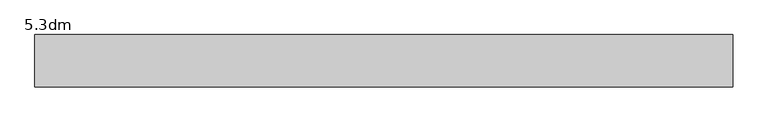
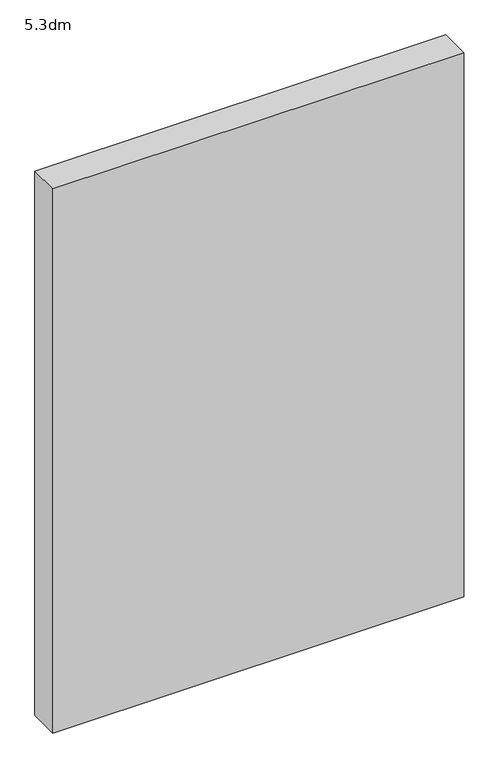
"""IFC4 building model written with IfcOpenShell, lengths in millimetres: proxy geometry, 5.3dm."""

from ifc_helpers import new_model, si_unit, origin, origin_with_axes, place, context, project, spatial, polyline, outline, extrude, source, transform, mapped, element, save


def proxy_5_3dm_34431002(model_context):
    return source(origin(), model_context, "Body", "SweptSolid", [
        extrude(outline(polyline([(9016.2096042, 12.0), (9016.2096042, 162.0), (11016.2096042, 162.0), (11016.2096042, 12.0), (9016.2096042, 12.0)])), origin_with_axes(), (0.0, 0.0, 1.0), 2800.0),
    ])


if __name__ == "__main__":
    model = new_model("IFC4")
    model_context = context("Model", 3, world=origin())
    ifc_project = project(units=[si_unit("LENGTHUNIT", "METRE", prefix="MILLI")], contexts=[model_context])
    site = spatial("IfcSite", under=ifc_project)
    building = spatial("IfcBuilding", under=site)
    placement = place(None, origin())
    proxy_5_3dm_shape = proxy_5_3dm_34431002(model_context)
    element("IfcBuildingElementProxy", 1, Name="5.3dm", ObjectType="5.3dm", at=placement, inside=building, context=model_context, shape_type="MappedRepresentation", body=[
        mapped(proxy_5_3dm_shape, transform((0.0, 0.0, 0.0), x_axis=(1.0, 0.0, 0.0), y_axis=(0.0, 1.0, 0.0), z_axis=(0.0, 0.0, 1.0))),
    ])
    save(model, "model.ifc")
